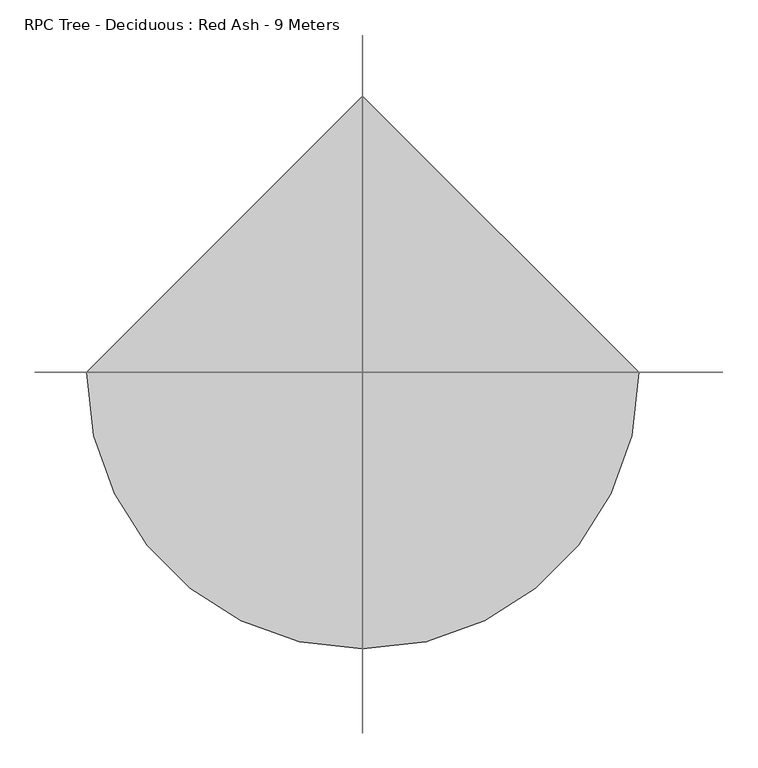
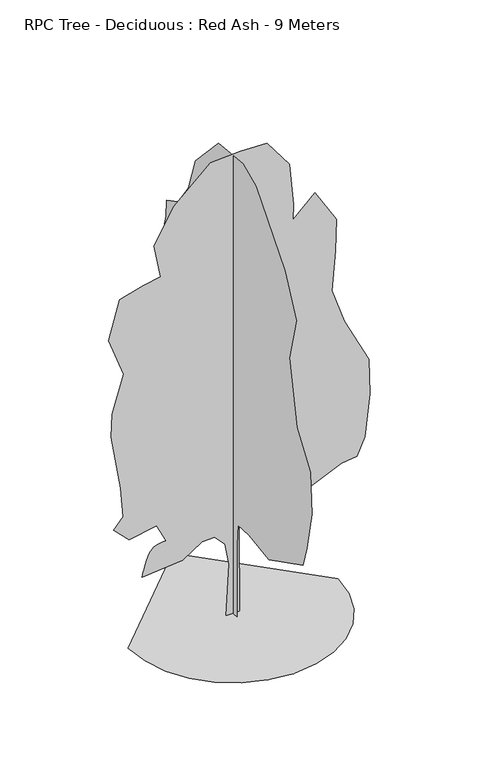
"""IFC4 building model written with IfcOpenShell, lengths in millimetres: geographic element geometry, RPC Tree - Deciduous : Red Ash - 9 Meters."""

from ifc_helpers import new_model, si_unit, origin, place, context, project, spatial, triangles, source, transform, mapped, element, save


def rpc_tree_deciduous_red_ash_9_meters_4b385689(model_context):
    return source(origin(), model_context, "Body", "Tessellation", [
        triangles([(-1942.8572823, 0.0, 7.31e-05), (-1891.4942837, -445.1744259, 7.31e-05), (-1745.2138229, -853.9959108, 7.31e-05), (-1515.7279758, -1214.7512163, 7.31e-05), (-1214.7513617, -1515.7282665, 7.31e-05), (-853.9956928, -1745.2135323, 7.31e-05), (-445.1742442, -1891.4942837, 7.31e-05), (8.49e-05, -1942.8572823, 7.31e-05), (445.1744622, -1891.494429, 7.31e-05), (853.9959835, -1745.2136776, 7.31e-05), (1214.7513617, -1515.7279758, 7.31e-05), (1515.7285572, -1214.7513617, 7.31e-05), (1745.2135323, -853.9956202, 7.31e-05), (1891.4942837, -445.1741352, 7.31e-05), (1942.8572823, 0.0001698, 7.31e-05), (-0.0002548, 1942.8572823, 7.31e-05), (-1.27e-05, -121.471955, 0.0), (2.96e-05, -119.5827353, 1410.890625), (3.81e-05, -153.4038813, 1816.3026524), (8e-07, -518.2977242, 1840.3529285), (-6.83e-05, -1153.2180536, 1746.0317963), (-0.0001659, -2248.4559254, 2301.58713), (-0.0001669, -2375.4401802, 2714.2857765), (-0.0001607, -2534.1703171, 3476.1901428), (-0.0001321, -2486.551712, 4269.8411179), (-6.87e-05, -2055.5692978, 4890.9654144), (-6.5e-06, -1804.0141582, 6095.2378372), (-4.2e-06, -2026.2344604, 6952.380867), (5.66e-05, -1661.1555817, 7714.285524), (0.0001853, -740.5208605, 8809.5239044), (0.0002345, -322.6779785, 8997.8670593), (0.0003144, 465.8286884, 8920.6351456), (0.0003686, 1211.8604771, 8126.9841705), (0.0003719, 1434.0829594, 7460.317305), (0.0003925, 1767.4149387, 6984.1266037), (0.0004249, 2132.4958523, 6793.6510208), (0.0004171, 2148.3687206, 6476.1901657), (0.0004162, 2243.6070934, 6111.1112869), (0.0003868, 2084.8768112, 5682.539772), (0.0003894, 2227.7339344, 5269.8417068), (0.0003873, 2370.5910576, 4698.4132141), (0.0003793, 2338.8451756, 4539.6824959), (0.0003398, 2069.0040882, 4158.7301674), (0.0003224, 2051.942775, 3634.9205704), (0.0003109, 2037.2577702, 3301.5871376), (0.0003003, 2053.1309292, 2888.8890724), (0.0002849, 2069.0042336, 2317.460725), (0.0002565, 1846.7817513, 2142.8572838), (0.0002134, 1434.0835407, 2142.8572838), (0.0002158, 1624.559705, 1555.5557774), (0.0002026, 1592.7107769, 1222.304607), (0.0001791, 1302.792572, 1450.2004349), (0.0001165, 743.4598526, 1307.1348942), (0.0001157, 651.6281033, 1602.8278919), (7.43e-05, 255.0150846, 1599.2156124), (5.94e-05, 154.4896435, 1450.7887711), (3.86e-05, 93.955902, 966.4761818), (1.38e-05, 132.4795408, 1.51e-05), (-130.9498467, 5.7e-06, 5.27e-05), (-78.793083, -0.0001139, 984.4508114), (-152.7251618, -0.0001606, 1403.082962), (-343.4502208, -0.0001772, 1612.5799129), (-571.2241811, -0.0001663, 1604.7594601), (-940.4737719, -0.0001216, 1365.0794678), (-1686.5054878, -8.14e-05, 1301.5877037), (-1676.1857689, -8.68e-05, 1342.6354889), (-1665.1719063, -9.23e-05, 1385.0714161), (-1652.7697563, -9.83e-05, 1430.283918), (-1638.2848846, -0.0001048, 1479.6618633), (-1621.0238743, -0.0001121, 1534.5917953), (-1600.2917095, -0.0001204, 1596.4646175), (-1575.3946827, -0.0001298, 1666.6667278), (-1544.0189816, -0.000139, 1731.7787418), (-1505.146209, -0.0001463, 1779.3976376), (-1460.0261433, -0.0001522, 1812.4389347), (-1409.9079815, -0.000157, 1833.8194611), (-1356.0416473, -0.0001608, 1846.4527016), (-1299.6760471, -0.0001641, 1853.2553387), (-1242.0609592, -0.0001671, 1857.1428921), (-1416.6639645, -0.0002011, 2206.3491932), (-1924.6008385, -0.0001675, 2111.1111111), (-2210.3146488, -0.0001891, 2396.8257935), (-2035.7114983, -0.0002213, 2603.174826), (-2083.330394, -0.0002874, 3174.6036095), (-2257.9335445, -0.0004065, 4238.0950905), (-2242.3001965, -0.0004597, 4678.5417526), (-2031.3985348, -0.0005537, 5389.7547363), (-2305.5527309, -0.0006315, 6142.8570236), (-2099.2032623, -0.0007276, 6873.0159439), (-1670.6323288, -0.0007614, 7000.0000534), (-1344.5826084, -0.0007825, 7057.514566), (-1464.2832962, -0.0008537, 7698.4126556), (-1099.203618, -0.0009473, 8349.2066528), (-416.6637388, -0.0010509, 8968.254332), (138.8913587, -0.001079, 9000.0000687), (630.9551645, -0.0010986, 8984.126619), (1043.6535931, -0.0010504, 8428.5715759), (1119.5339178, -0.0009567, 7615.1787827), (1108.6380713, -0.0009207, 7316.8935013), (1519.8438583, -0.0009842, 7698.4126556), (1916.6693459, -0.0009239, 7047.6186584), (1900.7964775, -0.0008499, 6432.8852509), (1830.0679459, -0.0007559, 5670.0614639), (2059.526469, -0.0006861, 5000.0000381), (2517.8314888, -0.0005985, 4097.4778015), (2532.4433876, -0.000518, 3416.7042389), (2440.4786522, -0.000417, 2603.174826), (2297.6216743, -0.000371, 2269.8412479), (2011.9072826, -0.0003547, 2238.0952206), (1456.3519489, -0.0003002, 1984.1268562), (964.2880159, -0.000237, 1634.9207005), (304.106147, -0.000242, 1918.7820076), (109.9026031, -0.0002086, 1709.8047924), (123.0179998, -5.4e-06, 4.16e-05)], [[15, 16, 1], [14, 15, 1], [14, 1, 2], [13, 14, 2], [13, 2, 3], [13, 3, 4], [12, 13, 4], [11, 12, 4], [11, 4, 5], [11, 5, 6], [11, 6, 7], [11, 7, 8], [11, 8, 9], [11, 9, 10], [50, 51, 52], [57, 58, 17], [57, 17, 18], [56, 57, 18], [56, 18, 19], [55, 56, 19], [49, 50, 52], [52, 53, 54], [49, 52, 54], [35, 36, 37], [46, 47, 48], [46, 48, 49], [21, 22, 23], [20, 21, 23], [20, 23, 24], [20, 24, 25], [20, 25, 26], [19, 20, 26], [19, 26, 27], [45, 46, 49], [31, 32, 33], [30, 31, 33], [29, 30, 33], [29, 33, 34], [28, 29, 34], [27, 28, 34], [19, 27, 34], [19, 34, 35], [19, 35, 37], [19, 37, 38], [19, 38, 39], [19, 39, 40], [19, 40, 41], [19, 41, 42], [19, 42, 43], [19, 43, 44], [19, 44, 45], [19, 45, 49], [19, 49, 54], [55, 19, 54], [64, 65, 66], [64, 66, 67], [64, 67, 68], [99, 100, 101], [64, 68, 69], [64, 69, 70], [64, 70, 71], [114, 59, 60], [113, 114, 60], [113, 60, 61], [113, 61, 62], [64, 71, 72], [64, 72, 73], [64, 73, 74], [64, 74, 75], [64, 75, 76], [64, 76, 77], [64, 77, 78], [64, 78, 79], [63, 64, 79], [81, 82, 83], [80, 81, 83], [99, 101, 102], [107, 108, 109], [110, 111, 112], [88, 89, 90], [87, 88, 90], [87, 90, 91], [80, 83, 84], [95, 96, 97], [95, 97, 98], [94, 95, 98], [93, 94, 98], [92, 93, 98], [91, 92, 98], [91, 98, 99], [87, 91, 99], [87, 99, 102], [87, 102, 103], [87, 103, 104], [86, 87, 104], [85, 86, 104], [84, 85, 104], [80, 84, 104], [80, 104, 105], [80, 105, 106], [80, 106, 107], [80, 107, 109], [80, 109, 110], [80, 110, 112], [79, 80, 112], [63, 79, 112], [62, 63, 112], [113, 62, 112]], closed=False),
    ])


if __name__ == "__main__":
    model = new_model("IFC4")
    model_context = context("Model", 3, world=origin())
    ifc_project = project(units=[si_unit("LENGTHUNIT", "METRE", prefix="MILLI")], contexts=[model_context])
    site = spatial("IfcSite", under=ifc_project)
    building = spatial("IfcBuilding", under=site)
    placement = place(None, origin())
    rpc_tree_deciduous_red_ash_9_meters_shape = rpc_tree_deciduous_red_ash_9_meters_4b385689(model_context)
    element("IfcGeographicElement", 1, ObjectType="RPC Tree - Deciduous : Red Ash - 9 Meters", at=placement, inside=building, context=model_context, shape_type="MappedRepresentation", body=[
        mapped(rpc_tree_deciduous_red_ash_9_meters_shape, transform((0.0, 0.0, 0.0), x_axis=(1.0, 0.0, 0.0), y_axis=(0.0, 1.0, 0.0), z_axis=(0.0, 0.0, 1.0))),
    ])
    save(model, "model.ifc")
